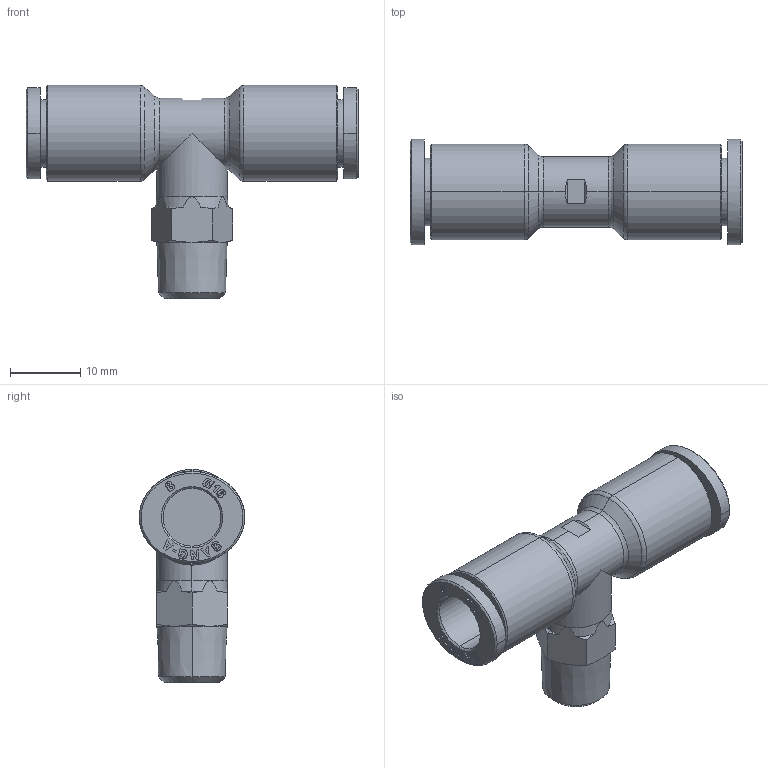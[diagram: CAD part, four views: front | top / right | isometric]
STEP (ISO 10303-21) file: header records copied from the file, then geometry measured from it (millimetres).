
FILE_DESCRIPTION((''),'2;1');
FILE_NAME('GPT 0801(3D).stp','2012-12-26T18:54:04',(''),(''),'Mechanical Desktop.R8.0.24.0','Mechanical Desktop.R8.0.24.0',', , ');
FILE_SCHEMA(('CONFIG_CONTROL_DESIGN'));
Length unit declared in the file: millimetre
Products named in the file (2): GPT 0801(3D); 睡ヶ1
Assembly tree (1 placements, depth 2):
  GPT 0801(3D)
    睡ヶ1
Bounding box: 47.2 x 15 x 30.3 mm (x, y, z)
Volume: 5326.9 mm3; surface area: 4199.7 mm2
Topology: 1 solids, 1 shells, 833 faces, 2328 edges, 1535 vertices
Faces by surface type: plane 685, bspline 62, cone 46, cylinder 36, torus 4
Entity records: 27923 total; most frequent: CARTESIAN_POINT 6544, ORIENTED_EDGE 4652, DIRECTION 4066, EDGE_CURVE 2326, VECTOR 2032, LINE 2032, VERTEX_POINT 1535, AXIS2_PLACEMENT_3D 1017
